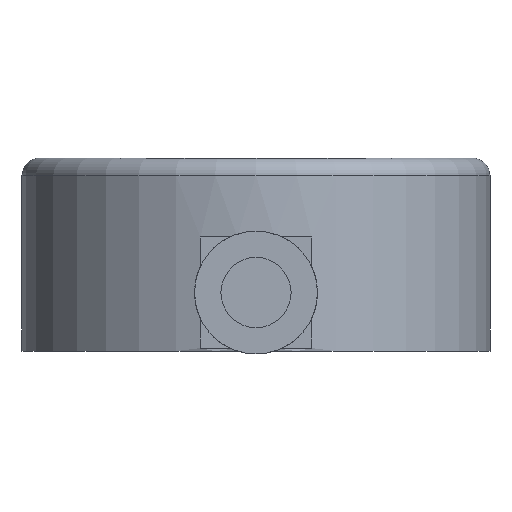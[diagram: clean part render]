
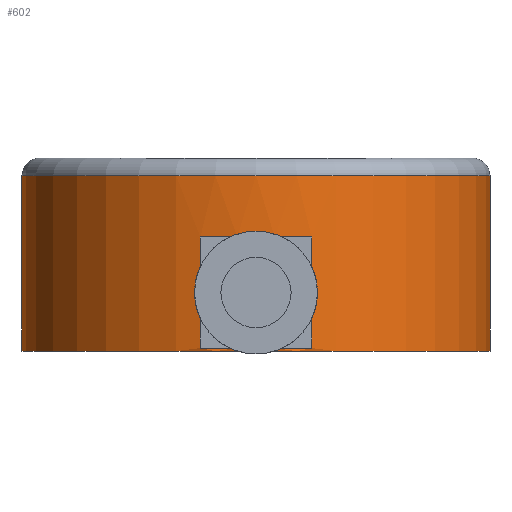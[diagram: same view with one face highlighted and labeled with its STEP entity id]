
A CAD part, front view. The second image highlights one B-rep face of the part: STEP entity #602.
In plain terms, the highlighted cylindrical face has radius 40 mm (diameter 80 mm), a partial arc.
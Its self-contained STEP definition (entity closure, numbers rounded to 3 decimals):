
#10 = CARTESIAN_POINT ( 'NONE',  ( -9.5, -38.856, 0.5 ) ) ;
#38 = CARTESIAN_POINT ( 'NONE',  ( 0., 0., 19.5 ) ) ;
#43 = EDGE_CURVE ( 'NONE', #563, #584, #489, .T. ) ;
#50 = CARTESIAN_POINT ( 'NONE',  ( 0., 0., 30. ) ) ;
#53 = ORIENTED_EDGE ( 'NONE', *, *, #63, .T. ) ;
#57 = DIRECTION ( 'NONE',  ( 1., 0., 0. ) ) ;
#63 = EDGE_CURVE ( 'NONE', #584, #493, #633, .T. ) ;
#65 = AXIS2_PLACEMENT_3D ( 'NONE', #38, #347, #349 ) ;
#76 = FACE_OUTER_BOUND ( 'NONE', #362, .T. ) ;
#113 = DIRECTION ( 'NONE',  ( 0., 0., -1. ) ) ;
#128 = DIRECTION ( 'NONE',  ( 0., 0., -1. ) ) ;
#144 = VERTEX_POINT ( 'NONE', #590 ) ;
#145 = CARTESIAN_POINT ( 'NONE',  ( 9.5, -38.856, 0.5 ) ) ;
#159 = CARTESIAN_POINT ( 'NONE',  ( 0., 0., 0.5 ) ) ;
#160 = EDGE_CURVE ( 'NONE', #493, #183, #405, .T. ) ;
#162 = CARTESIAN_POINT ( 'NONE',  ( -40., 0., 33. ) ) ;
#163 = AXIS2_PLACEMENT_3D ( 'NONE', #50, #685, #57 ) ;
#164 = EDGE_CURVE ( 'NONE', #259, #144, #531, .T. ) ;
#174 = DIRECTION ( 'NONE',  ( 0., 0., -1. ) ) ;
#177 = CIRCLE ( 'NONE', #352, 40. ) ;
#179 = LINE ( 'NONE', #594, #469 ) ;
#183 = VERTEX_POINT ( 'NONE', #381 ) ;
#196 = EDGE_CURVE ( 'NONE', #440, #457, #179, .T. ) ;
#217 = ORIENTED_EDGE ( 'NONE', *, *, #477, .T. ) ;
#228 = CYLINDRICAL_SURFACE ( 'NONE', #638, 40. ) ;
#230 = DIRECTION ( 'NONE',  ( 0., 0., 1. ) ) ;
#246 = CARTESIAN_POINT ( 'NONE',  ( 9.5, -38.856, 19.5 ) ) ;
#259 = VERTEX_POINT ( 'NONE', #10 ) ;
#269 = AXIS2_PLACEMENT_3D ( 'NONE', #630, #230, #373 ) ;
#272 = ORIENTED_EDGE ( 'NONE', *, *, #164, .T. ) ;
#275 = DIRECTION ( 'NONE',  ( 0., 0., -1. ) ) ;
#282 = CARTESIAN_POINT ( 'NONE',  ( -40., 0., 30. ) ) ;
#292 = VECTOR ( 'NONE', #542, 1000. ) ;
#298 = ORIENTED_EDGE ( 'NONE', *, *, #196, .T. ) ;
#304 = CARTESIAN_POINT ( 'NONE',  ( 40., 0., 30. ) ) ;
#335 = EDGE_CURVE ( 'NONE', #563, #183, #398, .T. ) ;
#347 = DIRECTION ( 'NONE',  ( 0., 0., 1. ) ) ;
#349 = DIRECTION ( 'NONE',  ( 1., 0., 0. ) ) ;
#350 = EDGE_LOOP ( 'NONE', ( #390, #298, #217, #272 ) ) ;
#352 = AXIS2_PLACEMENT_3D ( 'NONE', #159, #113, #637 ) ;
#362 = EDGE_LOOP ( 'NONE', ( #516, #378, #53, #403 ) ) ;
#369 = CARTESIAN_POINT ( 'NONE',  ( -40., 0., 0. ) ) ;
#373 = DIRECTION ( 'NONE',  ( 1., 0., 0. ) ) ;
#378 = ORIENTED_EDGE ( 'NONE', *, *, #43, .T. ) ;
#381 = CARTESIAN_POINT ( 'NONE',  ( 40., 0., 0. ) ) ;
#383 = EDGE_CURVE ( 'NONE', #144, #440, #449, .T. ) ;
#390 = ORIENTED_EDGE ( 'NONE', *, *, #383, .T. ) ;
#396 = FACE_BOUND ( 'NONE', #350, .T. ) ;
#398 = LINE ( 'NONE', #552, #631 ) ;
#403 = ORIENTED_EDGE ( 'NONE', *, *, #160, .T. ) ;
#405 = CIRCLE ( 'NONE', #269, 40. ) ;
#440 = VERTEX_POINT ( 'NONE', #246 ) ;
#443 = CARTESIAN_POINT ( 'NONE',  ( 0., 0., 33. ) ) ;
#449 = CIRCLE ( 'NONE', #65, 40. ) ;
#457 = VERTEX_POINT ( 'NONE', #145 ) ;
#462 = VECTOR ( 'NONE', #626, 1000. ) ;
#469 = VECTOR ( 'NONE', #275, 1000. ) ;
#477 = EDGE_CURVE ( 'NONE', #457, #259, #177, .T. ) ;
#489 = CIRCLE ( 'NONE', #163, 40. ) ;
#493 = VERTEX_POINT ( 'NONE', #369 ) ;
#494 = DIRECTION ( 'NONE',  ( -1., 0., 0. ) ) ;
#516 = ORIENTED_EDGE ( 'NONE', *, *, #335, .F. ) ;
#528 = CARTESIAN_POINT ( 'NONE',  ( -9.5, -38.856, 33. ) ) ;
#531 = LINE ( 'NONE', #528, #292 ) ;
#542 = DIRECTION ( 'NONE',  ( 0., 0., 1. ) ) ;
#552 = CARTESIAN_POINT ( 'NONE',  ( 40., 0., 33. ) ) ;
#563 = VERTEX_POINT ( 'NONE', #304 ) ;
#584 = VERTEX_POINT ( 'NONE', #282 ) ;
#590 = CARTESIAN_POINT ( 'NONE',  ( -9.5, -38.856, 19.5 ) ) ;
#594 = CARTESIAN_POINT ( 'NONE',  ( 9.5, -38.856, 33. ) ) ;
#602 = ADVANCED_FACE ( 'NONE', ( #76, #396 ), #228, .T. ) ;
#626 = DIRECTION ( 'NONE',  ( 0., 0., -1. ) ) ;
#630 = CARTESIAN_POINT ( 'NONE',  ( 0., 0., 0. ) ) ;
#631 = VECTOR ( 'NONE', #128, 1000. ) ;
#633 = LINE ( 'NONE', #162, #462 ) ;
#637 = DIRECTION ( 'NONE',  ( -1., 0., 0. ) ) ;
#638 = AXIS2_PLACEMENT_3D ( 'NONE', #443, #174, #494 ) ;
#685 = DIRECTION ( 'NONE',  ( 0., 0., -1. ) ) ;
